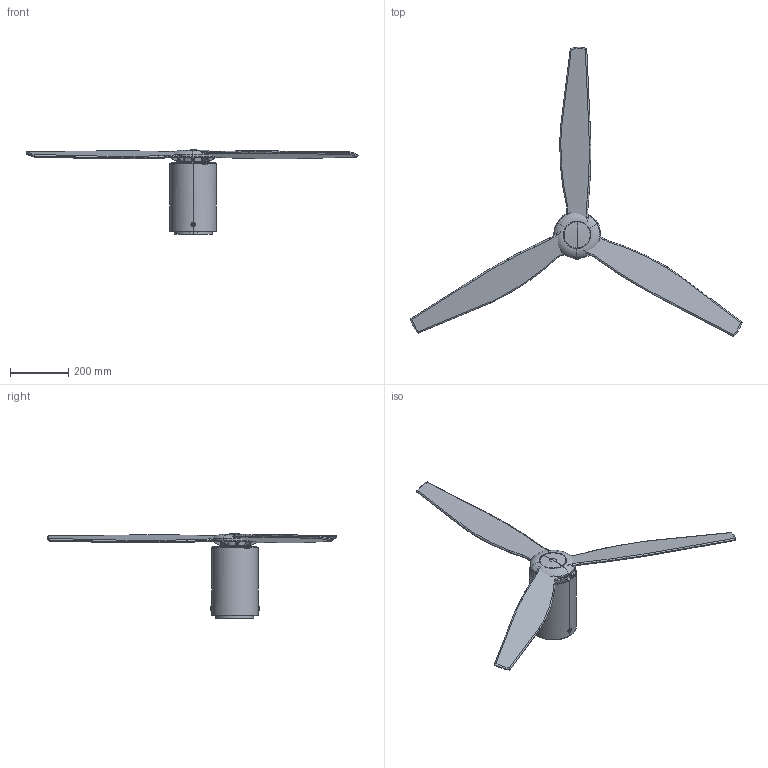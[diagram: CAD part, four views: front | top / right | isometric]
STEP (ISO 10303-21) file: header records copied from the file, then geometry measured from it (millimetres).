
FILE_DESCRIPTION(/* description */ (''),/* implementation_level */ '2;1');
FILE_NAME(/* name */ 'C:\Users\Franco Sartori E\Documents\FARO\DUPLICADO\Modelos\01_Digitalizados\PRIORIZACION 2D\3_TUBEFAN\03_Publicación\32038W.stp',/* time_stamp */ '2020-12-07T13:23:07+01:00',/* author */ ('Franco Sartori E'),/* organization */ (''),/* preprocessor_version */ 'ST-DEVELOPER v18.1',/* originating_system */ 'AutoCAD Mechanical',/* authorisation */ '');
FILE_SCHEMA (('AUTOMOTIVE_DESIGN { 1 0 10303 214 3 1 1 }'));
Length unit declared in the file: millimetre
Products named in the file (2): Product; miniTUBEFAN_1280 - FAN-467713-_3D_
Assembly tree (1 placements, depth 2):
  Product
    miniTUBEFAN_1280 - FAN-467713-_3D_
Bounding box: 1139.85 x 993.04 x 289.96 mm (x, y, z)
Volume: 2921367.5 mm3; surface area: 840814.5 mm2
Topology: 24 solids, 24 shells, 619 faces, 1551 edges, 983 vertices
Faces by surface type: plane 198, cylinder 162, torus 150, bspline 68, cone 37, sphere 4
Entity records: 24425 total; most frequent: CARTESIAN_POINT 11010, ORIENTED_EDGE 3034, DIRECTION 2332, EDGE_CURVE 1517, VERTEX_POINT 967, AXIS2_PLACEMENT_3D 925, EDGE_LOOP 662, B_SPLINE_CURVE_WITH_KNOTS 634
